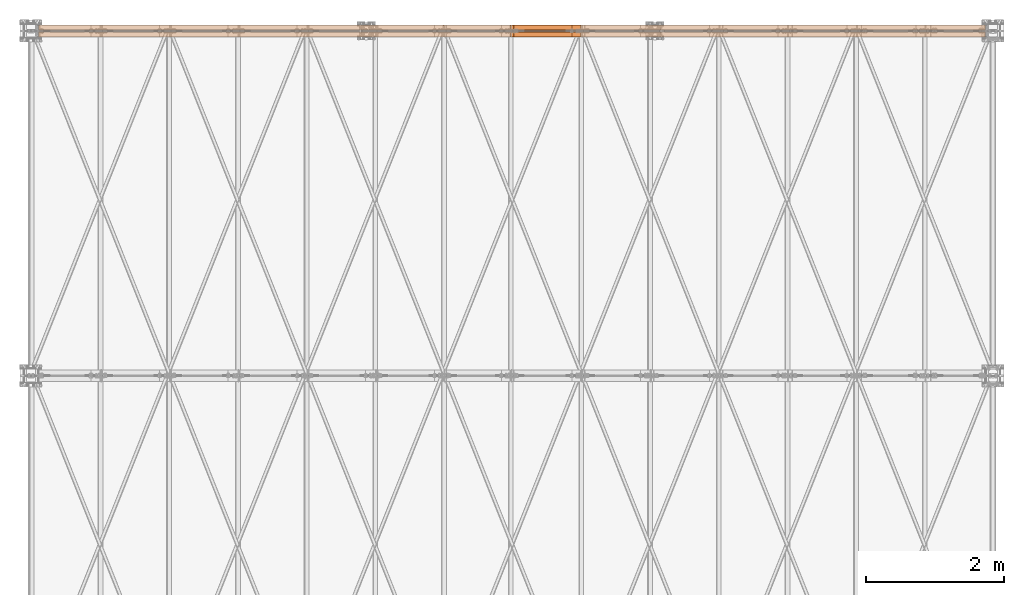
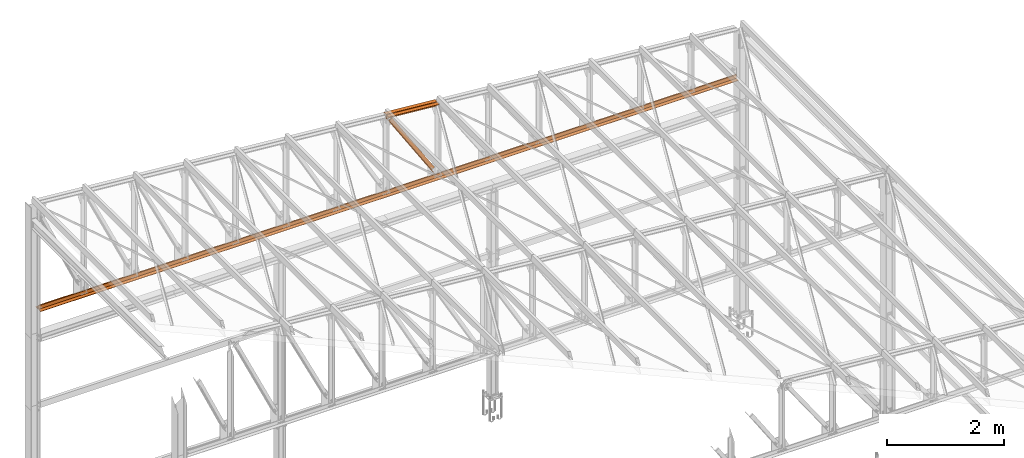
# One storey, part 244 of 251: 6 proxies.
"""IFC4 building model written with IfcOpenShell, lengths in metres."""

from ifc_helpers import new_model, si_unit, frame, origin_with_axes, origin_2d_with_axis, place, context, project, spatial, polyline, i_section, outline, extrude, material, material_profile, profile_set, profile_usage, type_object, element, save


model = new_model("IFC4")

# Units and contexts
model_context = context("Model", 3, precision=1e-05, world=origin_with_axes())
ifc_project = project(units=[si_unit("LENGTHUNIT", "METRE"), si_unit("AREAUNIT", "SQUARE_METRE"), si_unit("VOLUMEUNIT", "CUBIC_METRE"), si_unit("MASSUNIT", "GRAM", prefix="KILO"), si_unit("TIMEUNIT", "SECOND"), si_unit("PLANEANGLEUNIT", "RADIAN"), si_unit("SOLIDANGLEUNIT", "STERADIAN"), si_unit("THERMODYNAMICTEMPERATUREUNIT", "DEGREE_CELSIUS")], contexts=[model_context])

# Site, building, storey
placement_1 = place(None, origin_with_axes())
site = spatial("IfcSite", under=ifc_project, at=placement_1, Name="Italia", CompositionType="ELEMENT")
building = spatial("IfcBuilding", under=site, at=placement_1, Name="Deposito", CompositionType="ELEMENT")
storey = spatial("IfcBuildingStorey", under=building, at=placement_1, Name="Storey 0", CompositionType="ELEMENT", Elevation=0.0)

# Proxies
ifc_material = material(Name="Acciaio", Category="Acciaio")
ifc_material_profile = material_profile(ifc_material, i_section(OverallWidth=0.2, OverallDepth=0.19, WebThickness=0.006, FlangeThickness=0.01, FilletRadius=0.018, at=origin_2d_with_axis()), Name="7 PILASTRO HEA200")
ifc_profile_set = profile_set([ifc_material_profile])
ifc_profile_usage_1 = profile_usage(ifc_profile_set, cardinal=1)
member_type_1 = type_object("IfcMemberType", Name="5 2L80x8", PredefinedType="MEMBER", material=ifc_profile_usage_1)
placement_2 = place(placement_1, origin_with_axes())
proxy_1_placement = place(placement_2, origin_with_axes())
element("IfcBuildingElementProxy", 1, at=proxy_1_placement, inside=storey, type_object=member_type_1, Name="80005", context=model_context, shape_type="SweptSolid", body=[
    extrude(outline(polyline([(0.0, 0.0), (-0.0799999, 0.0), (-0.0799999, 0.0079999), (-0.00800133, 0.0079999), (-0.00800133, 0.0799999), (0.0, 0.0799999), (0.0, 0.0)])), frame((6.15505, 19.995, 4.97748), z_axis=(1.0, 0.0, 0.0), x_axis=(0.0, 1.0, 0.0)), (0.0, 0.0, 1.0), 13.7399),
])
ifc_profile_usage_2 = profile_usage(ifc_profile_set, cardinal=1)
member_type_2 = type_object("IfcMemberType", Name="5 2L80x8", PredefinedType="MEMBER", material=ifc_profile_usage_2)
proxy_2_placement = place(placement_2, origin_with_axes())
element("IfcBuildingElementProxy", 2, at=proxy_2_placement, inside=storey, type_object=member_type_2, Name="80005", context=model_context, shape_type="SweptSolid", body=[
    extrude(outline(polyline([(0.0, 0.0), (0.00800133, 0.0), (0.00800133, -0.072), (0.0799999, -0.072), (0.0799999, -0.0799999), (0.0, -0.0799999), (0.0, 0.0)])), frame((6.15505, 20.005, 5.05748), z_axis=(1.0, 0.0, 0.0), x_axis=(0.0, 1.0, 0.0)), (0.0, 0.0, 1.0), 13.7399),
])
ifc_profile_usage_3 = profile_usage(ifc_profile_set, cardinal=2)
member_type_3 = type_object("IfcMemberType", Name="5 2L80x8", PredefinedType="MEMBER", material=ifc_profile_usage_3)
proxy_3_placement = place(placement_2, origin_with_axes())
element("IfcBuildingElementProxy", 3, at=proxy_3_placement, inside=storey, type_object=member_type_3, Name="230075", context=model_context, shape_type="SweptSolid", body=[
    extrude(outline(polyline([(0.0, 0.0), (0.0799999, 0.0), (0.0799999, -0.00800037), (0.00800133, -0.00800037), (0.00800133, -0.0799999), (0.0, -0.0799999), (0.0, 0.0)])), frame((13.0069, 20.005, 6.6321), z_axis=(0.996389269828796, 0.0, -0.084902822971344), x_axis=(0.0, 1.0, 0.0)), (0.0, 0.0, 1.0), 1.01649),
])
ifc_profile_usage_4 = profile_usage(ifc_profile_set, cardinal=2)
member_type_4 = type_object("IfcMemberType", Name="5 2L80x8", PredefinedType="MEMBER", material=ifc_profile_usage_4)
proxy_4_placement = place(placement_2, origin_with_axes())
element("IfcBuildingElementProxy", 4, at=proxy_4_placement, inside=storey, type_object=member_type_4, Name="230075", context=model_context, shape_type="SweptSolid", body=[
    extrude(outline(polyline([(0.0, 0.0), (-0.00800133, 0.0), (-0.00800133, 0.0719995), (-0.0799999, 0.0719995), (-0.0799999, 0.0799999), (0.0, 0.0799999), (0.0, 0.0)])), frame((13.0001, 19.995, 6.55239), z_axis=(0.996389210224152, 0.0, -0.084902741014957), x_axis=(0.0, 1.0, 0.0)), (0.0, 0.0, 1.0), 1.01649),
])
ifc_profile_usage_5 = profile_usage(ifc_profile_set, cardinal=1)
member_type_5 = type_object("IfcMemberType", Name="5 2L80x8", PredefinedType="MEMBER", material=ifc_profile_usage_5)
proxy_5_placement = place(placement_2, origin_with_axes())
element("IfcBuildingElementProxy", 5, at=proxy_5_placement, inside=storey, type_object=member_type_5, Name="160005", context=model_context, shape_type="SweptSolid", body=[
    extrude(outline(polyline([(0.0, 0.0), (-0.0799999, 0.0), (-0.0799999, 0.00799942), (-0.00800133, 0.00799942), (-0.00800133, 0.0799999), (0.0, 0.0799999), (0.0, 0.0)])), frame((13.05, 19.995, 6.4894), z_axis=(0.536214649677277, 0.0, -0.844081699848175), x_axis=(0.0, 1.0, 0.0)), (0.0, 0.0, 1.0), 1.5624),
])
ifc_profile_usage_6 = profile_usage(ifc_profile_set, cardinal=1)
member_type_6 = type_object("IfcMemberType", Name="5 2L80x8", PredefinedType="MEMBER", material=ifc_profile_usage_6)
proxy_6_placement = place(placement_2, origin_with_axes())
element("IfcBuildingElementProxy", 6, at=proxy_6_placement, inside=storey, type_object=member_type_6, Name="160005", context=model_context, shape_type="SweptSolid", body=[
    extrude(outline(polyline([(0.0, 0.0), (0.00800133, 0.0), (0.00800133, -0.0720005), (0.0799999, -0.0720005), (0.0799999, -0.0799999), (0.0, -0.0799999), (0.0, 0.0)])), frame((13.1175, 20.005, 6.5323), z_axis=(0.536214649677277, 0.0, -0.844081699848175), x_axis=(0.0, 1.0, 0.0)), (0.0, 0.0, 1.0), 1.5624),
])

save(model, "model.ifc")
